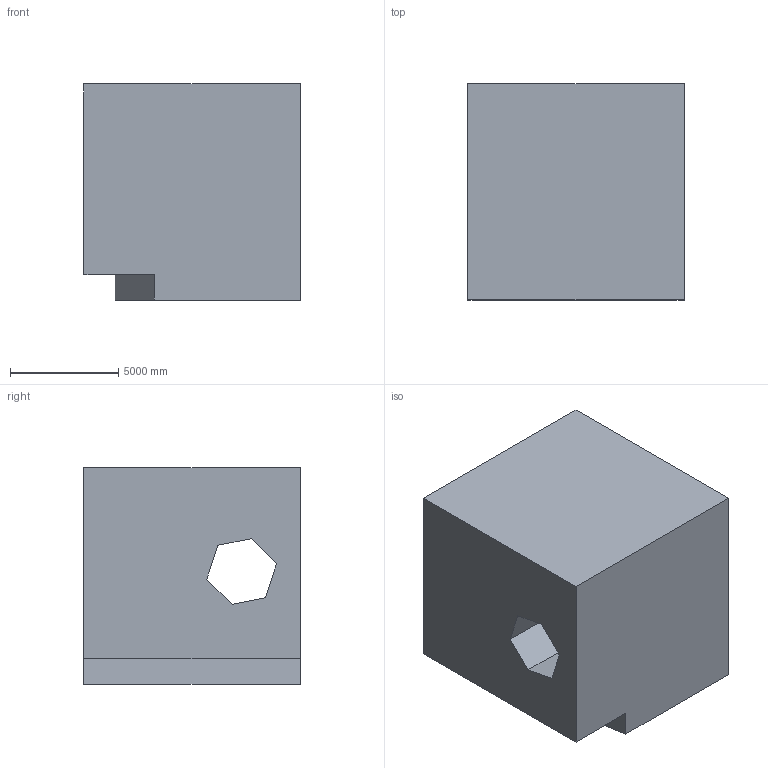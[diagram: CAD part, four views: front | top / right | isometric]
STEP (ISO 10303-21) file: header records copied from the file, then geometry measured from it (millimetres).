
FILE_DESCRIPTION (( 'STEP AP203' ), '1' );
FILE_NAME ('29.STEP', '2022-08-31T11:12:55', ( 'user' ), ( '' ), 'SwSTEP 2.0', 'SolidWorks 2021', '' );
FILE_SCHEMA (( 'CONFIG_CONTROL_DESIGN' ));
Length unit declared in the file: centimetre
Products named in the file (1): 29
Bounding box: 10000 x 10000 x 10000 mm (x, y, z)
Volume: 903689720201.9 mm3; surface area: 678422984.8 mm2
Topology: 1 solids, 1 shells, 14 faces, 36 edges, 24 vertices
Faces by surface type: plane 14
Entity records: 501 total; most frequent: CARTESIAN_POINT 75, ORIENTED_EDGE 72, DIRECTION 66, VECTOR 36, LINE 36, EDGE_CURVE 36, VERTEX_POINT 24, EDGE_LOOP 16
